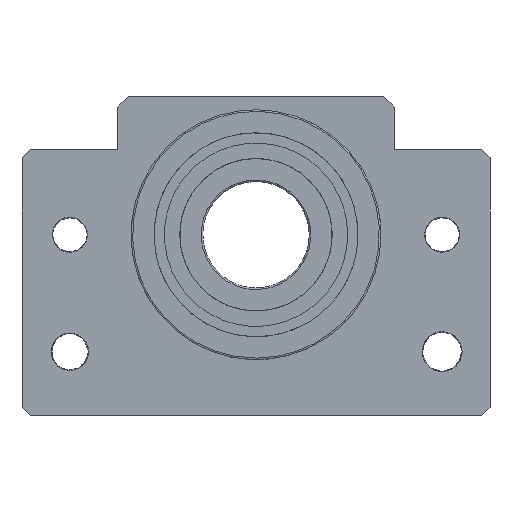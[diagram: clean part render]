
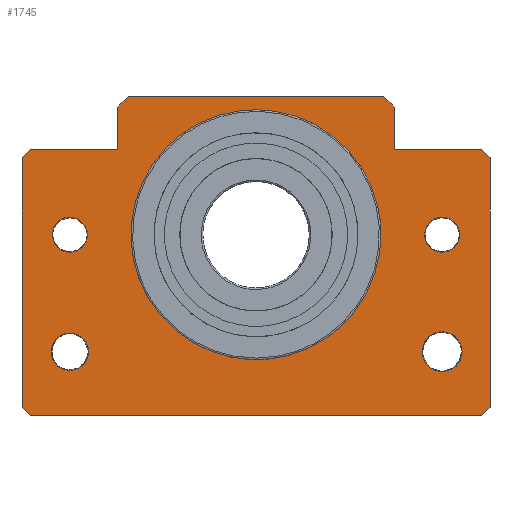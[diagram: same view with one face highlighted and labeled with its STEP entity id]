
A CAD part, front view. The second image highlights one B-rep face of the part: STEP entity #1745.
In plain terms, the highlighted free-form (B-spline) face has degree [1, 1] with [2, 2] control points.
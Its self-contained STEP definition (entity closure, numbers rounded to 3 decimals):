
#1022=CARTESIAN_POINT('',(44.,-32.44,0.));
#1023=VERTEX_POINT('',#1022);
#1024=CARTESIAN_POINT('',(42.44,-34.,0.));
#1025=VERTEX_POINT('',#1024);
#1026=CARTESIAN_POINT('',(44.,-32.44,0.));
#1027=CARTESIAN_POINT('',(42.44,-34.,0.));
#1028=B_SPLINE_CURVE_WITH_KNOTS('',1,(#1026,#1027),.POLYLINE_FORM.,.F.,.U.,(2,2),(0.,1.),.UNSPECIFIED.);
#1029=EDGE_CURVE('',#1023,#1025,#1028,.T.);
#1058=CARTESIAN_POINT('',(44.,14.44,0.));
#1059=VERTEX_POINT('',#1058);
#1060=CARTESIAN_POINT('',(44.,14.44,0.));
#1061=CARTESIAN_POINT('',(44.,-32.44,0.));
#1062=B_SPLINE_CURVE_WITH_KNOTS('',1,(#1060,#1061),.POLYLINE_FORM.,.F.,.U.,(2,2),(0.,1.),.UNSPECIFIED.);
#1063=EDGE_CURVE('',#1059,#1023,#1062,.T.);
#1086=CARTESIAN_POINT('',(-42.44,-34.,0.));
#1087=VERTEX_POINT('',#1086);
#1088=CARTESIAN_POINT('',(42.44,-34.,0.));
#1089=CARTESIAN_POINT('',(-42.44,-34.,0.));
#1090=B_SPLINE_CURVE_WITH_KNOTS('',1,(#1088,#1089),.POLYLINE_FORM.,.F.,.U.,(2,2),(0.,1.),.UNSPECIFIED.);
#1091=EDGE_CURVE('',#1025,#1087,#1090,.T.);
#1146=CARTESIAN_POINT('',(-44.,-32.44,0.));
#1147=VERTEX_POINT('',#1146);
#1148=CARTESIAN_POINT('',(-44.,14.44,0.));
#1149=VERTEX_POINT('',#1148);
#1150=CARTESIAN_POINT('',(-44.,-32.44,0.));
#1151=CARTESIAN_POINT('',(-44.,14.44,0.));
#1152=B_SPLINE_CURVE_WITH_KNOTS('',1,(#1150,#1151),.POLYLINE_FORM.,.F.,.U.,(2,2),(0.,1.),.UNSPECIFIED.);
#1153=EDGE_CURVE('',#1147,#1149,#1152,.T.);
#1182=CARTESIAN_POINT('',(-42.44,-34.,0.));
#1183=CARTESIAN_POINT('',(-44.,-32.44,0.));
#1184=B_SPLINE_CURVE_WITH_KNOTS('',1,(#1182,#1183),.POLYLINE_FORM.,.F.,.U.,(2,2),(0.,1.),.UNSPECIFIED.);
#1185=EDGE_CURVE('',#1087,#1147,#1184,.T.);
#1202=CARTESIAN_POINT('',(42.44,16.,0.));
#1203=VERTEX_POINT('',#1202);
#1204=CARTESIAN_POINT('',(42.44,16.,0.));
#1205=CARTESIAN_POINT('',(44.,14.44,0.));
#1206=B_SPLINE_CURVE_WITH_KNOTS('',1,(#1204,#1205),.POLYLINE_FORM.,.F.,.U.,(2,2),(0.,1.),.UNSPECIFIED.);
#1207=EDGE_CURVE('',#1203,#1059,#1206,.T.);
#1230=CARTESIAN_POINT('',(26.,16.,0.));
#1231=VERTEX_POINT('',#1230);
#1232=CARTESIAN_POINT('',(26.,16.,0.));
#1233=CARTESIAN_POINT('',(42.44,16.,0.));
#1234=B_SPLINE_CURVE_WITH_KNOTS('',1,(#1232,#1233),.POLYLINE_FORM.,.F.,.U.,(2,2),(0.,1.),.UNSPECIFIED.);
#1235=EDGE_CURVE('',#1231,#1203,#1234,.T.);
#1274=CARTESIAN_POINT('',(26.,24.,0.));
#1275=VERTEX_POINT('',#1274);
#1276=CARTESIAN_POINT('',(26.,24.,0.));
#1277=CARTESIAN_POINT('',(26.,16.,0.));
#1278=B_SPLINE_CURVE_WITH_KNOTS('',1,(#1276,#1277),.POLYLINE_FORM.,.F.,.U.,(2,2),(0.,1.),.UNSPECIFIED.);
#1279=EDGE_CURVE('',#1275,#1231,#1278,.T.);
#1302=CARTESIAN_POINT('',(24.,26.,0.));
#1303=VERTEX_POINT('',#1302);
#1304=CARTESIAN_POINT('',(24.,26.,0.));
#1305=CARTESIAN_POINT('',(26.,24.,0.));
#1306=B_SPLINE_CURVE_WITH_KNOTS('',1,(#1304,#1305),.POLYLINE_FORM.,.F.,.U.,(2,2),(0.,1.),.UNSPECIFIED.);
#1307=EDGE_CURVE('',#1303,#1275,#1306,.T.);
#1330=CARTESIAN_POINT('',(-24.,26.,0.));
#1331=VERTEX_POINT('',#1330);
#1332=CARTESIAN_POINT('',(-24.,26.,0.));
#1333=CARTESIAN_POINT('',(24.,26.,0.));
#1334=B_SPLINE_CURVE_WITH_KNOTS('',1,(#1332,#1333),.POLYLINE_FORM.,.F.,.U.,(2,2),(0.,1.),.UNSPECIFIED.);
#1335=EDGE_CURVE('',#1331,#1303,#1334,.T.);
#1358=CARTESIAN_POINT('',(-26.,24.,0.));
#1359=VERTEX_POINT('',#1358);
#1360=CARTESIAN_POINT('',(-26.,24.,0.));
#1361=CARTESIAN_POINT('',(-24.,26.,0.));
#1362=B_SPLINE_CURVE_WITH_KNOTS('',1,(#1360,#1361),.POLYLINE_FORM.,.F.,.U.,(2,2),(0.,1.),.UNSPECIFIED.);
#1363=EDGE_CURVE('',#1359,#1331,#1362,.T.);
#1386=CARTESIAN_POINT('',(-26.,16.,0.));
#1387=VERTEX_POINT('',#1386);
#1388=CARTESIAN_POINT('',(-26.,16.,0.));
#1389=CARTESIAN_POINT('',(-26.,24.,0.));
#1390=B_SPLINE_CURVE_WITH_KNOTS('',1,(#1388,#1389),.POLYLINE_FORM.,.F.,.U.,(2,2),(0.,1.),.UNSPECIFIED.);
#1391=EDGE_CURVE('',#1387,#1359,#1390,.T.);
#1414=CARTESIAN_POINT('',(-42.44,16.,0.));
#1415=VERTEX_POINT('',#1414);
#1416=CARTESIAN_POINT('',(-42.44,16.,0.));
#1417=CARTESIAN_POINT('',(-26.,16.,0.));
#1418=B_SPLINE_CURVE_WITH_KNOTS('',1,(#1416,#1417),.POLYLINE_FORM.,.F.,.U.,(2,2),(0.,1.),.UNSPECIFIED.);
#1419=EDGE_CURVE('',#1415,#1387,#1418,.T.);
#1458=CARTESIAN_POINT('',(-44.,14.44,0.));
#1459=CARTESIAN_POINT('',(-42.44,16.,0.));
#1460=B_SPLINE_CURVE_WITH_KNOTS('',1,(#1458,#1459),.POLYLINE_FORM.,.F.,.U.,(2,2),(0.,1.),.UNSPECIFIED.);
#1461=EDGE_CURVE('',#1149,#1415,#1460,.T.);
#1642=CARTESIAN_POINT('',(23.5,0.,0.));
#1643=VERTEX_POINT('',#1642);
#1649=CARTESIAN_POINT('',(23.5,0.,0.));
#1650=CARTESIAN_POINT('',(23.5,-23.5,0.));
#1651=CARTESIAN_POINT('',(0.,-23.5,0.));
#1652=CARTESIAN_POINT('',(-23.5,-23.5,0.));
#1653=CARTESIAN_POINT('',(-23.5,0.,0.));
#1654=CARTESIAN_POINT('',(-23.5,23.5,0.));
#1655=CARTESIAN_POINT('',(0.,23.5,0.));
#1656=CARTESIAN_POINT('',(23.5,23.5,0.));
#1657=CARTESIAN_POINT('',(23.5,0.,0.));
#1658=(BOUNDED_CURVE()B_SPLINE_CURVE(2,(#1649,#1650,#1651,#1652,#1653,#1654,#1655,#1656,#1657),.UNSPECIFIED.,.T.,.U.)B_SPLINE_CURVE_WITH_KNOTS((3,2,2,2,3),(0.,0.25,0.5,0.75,1.),.UNSPECIFIED.)CURVE()GEOMETRIC_REPRESENTATION_ITEM()RATIONAL_B_SPLINE_CURVE((1.,0.707,1.,0.707,1.,0.707,1.,0.707,1.))REPRESENTATION_ITEM(''));
#1659=EDGE_CURVE('',#1643,#1643,#1658,.T.);
#1665=CARTESIAN_POINT('',(-110.508,-110.508,0.));
#1666=CARTESIAN_POINT('',(-110.508,110.508,0.));
#1667=CARTESIAN_POINT('',(110.508,-110.508,0.));
#1668=CARTESIAN_POINT('',(110.508,110.508,0.));
#1669=B_SPLINE_SURFACE_WITH_KNOTS('',1,1,((#1665,#1666),(#1667,#1668)),.PLANE_SURF.,.F.,.F.,.U.,(2,2),(2,2),(0.,1.),(0.,1.),.UNSPECIFIED.);
#1670=ORIENTED_EDGE('',*,*,#1153,.F.);
#1671=ORIENTED_EDGE('',*,*,#1185,.F.);
#1672=ORIENTED_EDGE('',*,*,#1091,.F.);
#1673=ORIENTED_EDGE('',*,*,#1029,.F.);
#1674=ORIENTED_EDGE('',*,*,#1063,.F.);
#1675=ORIENTED_EDGE('',*,*,#1207,.F.);
#1676=ORIENTED_EDGE('',*,*,#1235,.F.);
#1677=ORIENTED_EDGE('',*,*,#1279,.F.);
#1678=ORIENTED_EDGE('',*,*,#1307,.F.);
#1679=ORIENTED_EDGE('',*,*,#1335,.F.);
#1680=ORIENTED_EDGE('',*,*,#1363,.F.);
#1681=ORIENTED_EDGE('',*,*,#1391,.F.);
#1682=ORIENTED_EDGE('',*,*,#1419,.F.);
#1683=ORIENTED_EDGE('',*,*,#1461,.F.);
#1684=EDGE_LOOP('',(#1670,#1671,#1672,#1673,#1674,#1675,#1676,#1677,#1678,#1679,#1680,#1681,#1682,#1683));
#1685=FACE_OUTER_BOUND('',#1684,.T.);
#1686=ORIENTED_EDGE('',*,*,#1659,.T.);
#1687=EDGE_LOOP('',(#1686));
#1688=FACE_BOUND('',#1687,.T.);
#1689=CARTESIAN_POINT('',(-31.7,0.,0.));
#1690=VERTEX_POINT('',#1689);
#1691=CARTESIAN_POINT('',(-31.7,0.,0.));
#1692=CARTESIAN_POINT('',(-31.7,5.716,0.));
#1693=CARTESIAN_POINT('',(-36.65,2.858,0.));
#1694=CARTESIAN_POINT('',(-41.6,0.,0.));
#1695=CARTESIAN_POINT('',(-36.65,-2.858,0.));
#1696=CARTESIAN_POINT('',(-31.7,-5.716,0.));
#1697=CARTESIAN_POINT('',(-31.7,0.,0.));
#1698=(BOUNDED_CURVE()B_SPLINE_CURVE(2,(#1691,#1692,#1693,#1694,#1695,#1696,#1697),.CIRCULAR_ARC.,.T.,.U.)B_SPLINE_CURVE_WITH_KNOTS((3,2,2,3),(0.,0.333,0.667,1.),.UNSPECIFIED.)CURVE()GEOMETRIC_REPRESENTATION_ITEM()RATIONAL_B_SPLINE_CURVE((1.,0.5,1.,0.5,1.,0.5,1.))REPRESENTATION_ITEM(''));
#1699=EDGE_CURVE('',#1690,#1690,#1698,.T.);
#1700=ORIENTED_EDGE('',*,*,#1699,.F.);
#1701=EDGE_LOOP('',(#1700));
#1702=FACE_BOUND('',#1701,.T.);
#1703=CARTESIAN_POINT('',(-31.487,-22.,0.));
#1704=VERTEX_POINT('',#1703);
#1705=CARTESIAN_POINT('',(-31.487,-22.,0.));
#1706=CARTESIAN_POINT('',(-31.487,-15.916,0.));
#1707=CARTESIAN_POINT('',(-36.756,-18.958,0.));
#1708=CARTESIAN_POINT('',(-42.025,-22.,0.));
#1709=CARTESIAN_POINT('',(-36.756,-25.042,0.));
#1710=CARTESIAN_POINT('',(-31.487,-28.084,0.));
#1711=CARTESIAN_POINT('',(-31.487,-22.,0.));
#1712=(BOUNDED_CURVE()B_SPLINE_CURVE(2,(#1705,#1706,#1707,#1708,#1709,#1710,#1711),.CIRCULAR_ARC.,.T.,.U.)B_SPLINE_CURVE_WITH_KNOTS((3,2,2,3),(0.,0.333,0.667,1.),.UNSPECIFIED.)CURVE()GEOMETRIC_REPRESENTATION_ITEM()RATIONAL_B_SPLINE_CURVE((1.,0.5,1.,0.5,1.,0.5,1.))REPRESENTATION_ITEM(''));
#1713=EDGE_CURVE('',#1704,#1704,#1712,.T.);
#1714=ORIENTED_EDGE('',*,*,#1713,.F.);
#1715=EDGE_LOOP('',(#1714));
#1716=FACE_BOUND('',#1715,.T.);
#1717=CARTESIAN_POINT('',(38.3,0.,0.));
#1718=VERTEX_POINT('',#1717);
#1719=CARTESIAN_POINT('',(38.3,0.,0.));
#1720=CARTESIAN_POINT('',(38.3,5.716,0.));
#1721=CARTESIAN_POINT('',(33.35,2.858,0.));
#1722=CARTESIAN_POINT('',(28.4,0.,0.));
#1723=CARTESIAN_POINT('',(33.35,-2.858,0.));
#1724=CARTESIAN_POINT('',(38.3,-5.716,0.));
#1725=CARTESIAN_POINT('',(38.3,0.,0.));
#1726=(BOUNDED_CURVE()B_SPLINE_CURVE(2,(#1719,#1720,#1721,#1722,#1723,#1724,#1725),.CIRCULAR_ARC.,.T.,.U.)B_SPLINE_CURVE_WITH_KNOTS((3,2,2,3),(0.,0.333,0.667,1.),.UNSPECIFIED.)CURVE()GEOMETRIC_REPRESENTATION_ITEM()RATIONAL_B_SPLINE_CURVE((1.,0.5,1.,0.5,1.,0.5,1.))REPRESENTATION_ITEM(''));
#1727=EDGE_CURVE('',#1718,#1718,#1726,.T.);
#1728=ORIENTED_EDGE('',*,*,#1727,.F.);
#1729=EDGE_LOOP('',(#1728));
#1730=FACE_BOUND('',#1729,.T.);
#1731=CARTESIAN_POINT('',(38.751,-22.,0.));
#1732=VERTEX_POINT('',#1731);
#1733=CARTESIAN_POINT('',(38.751,-22.,0.));
#1734=CARTESIAN_POINT('',(38.751,-15.504,0.));
#1735=CARTESIAN_POINT('',(33.125,-18.752,0.));
#1736=CARTESIAN_POINT('',(27.499,-22.,0.));
#1737=CARTESIAN_POINT('',(33.125,-25.248,0.));
#1738=CARTESIAN_POINT('',(38.751,-28.496,0.));
#1739=CARTESIAN_POINT('',(38.751,-22.,0.));
#1740=(BOUNDED_CURVE()B_SPLINE_CURVE(2,(#1733,#1734,#1735,#1736,#1737,#1738,#1739),.CIRCULAR_ARC.,.T.,.U.)B_SPLINE_CURVE_WITH_KNOTS((3,2,2,3),(0.,0.333,0.667,1.),.UNSPECIFIED.)CURVE()GEOMETRIC_REPRESENTATION_ITEM()RATIONAL_B_SPLINE_CURVE((1.,0.5,1.,0.5,1.,0.5,1.))REPRESENTATION_ITEM(''));
#1741=EDGE_CURVE('',#1732,#1732,#1740,.T.);
#1742=ORIENTED_EDGE('',*,*,#1741,.F.);
#1743=EDGE_LOOP('',(#1742));
#1744=FACE_BOUND('',#1743,.T.);
#1745=ADVANCED_FACE('',(#1685,#1688,#1702,#1716,#1730,#1744),#1669,.T.);
